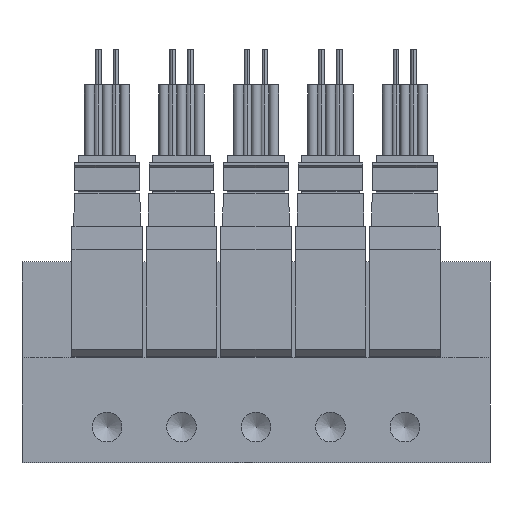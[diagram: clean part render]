
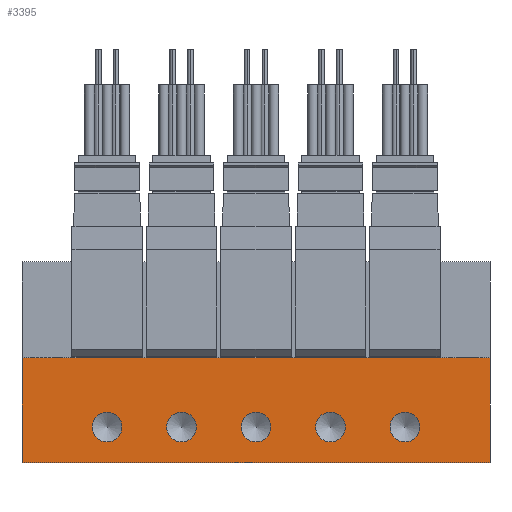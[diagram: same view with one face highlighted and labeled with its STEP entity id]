
A CAD part, front view. The second image highlights one B-rep face of the part: STEP entity #3395.
In plain terms, the highlighted planar face has unit normal (0, -1, 0).
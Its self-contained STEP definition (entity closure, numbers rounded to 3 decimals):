
#3395=ADVANCED_FACE('',(#5433,#5434,#5435,#5436,#5437,#5438),#5439,.F.);
#5433=FACE_BOUND('',#9680,.T.);
#5434=FACE_BOUND('',#9681,.T.);
#5435=FACE_BOUND('',#9682,.T.);
#5436=FACE_BOUND('',#9683,.T.);
#5437=FACE_BOUND('',#9684,.T.);
#5438=FACE_OUTER_BOUND('',#9685,.T.);
#5439=PLANE('',#9686);
#9680=EDGE_LOOP('',(#15055));
#9681=EDGE_LOOP('',(#15056));
#9682=EDGE_LOOP('',(#15057));
#9683=EDGE_LOOP('',(#15058));
#9684=EDGE_LOOP('',(#15059));
#9685=EDGE_LOOP('',(#15060,#15061,#15062,#15063));
#9686=AXIS2_PLACEMENT_3D('',#15064,#15065,#15066);
#15055=ORIENTED_EDGE('',*,*,#31189,.F.);
#15056=ORIENTED_EDGE('',*,*,#31213,.F.);
#15057=ORIENTED_EDGE('',*,*,#31214,.F.);
#15058=ORIENTED_EDGE('',*,*,#31215,.F.);
#15059=ORIENTED_EDGE('',*,*,#31216,.F.);
#15060=ORIENTED_EDGE('',*,*,#31217,.F.);
#15061=ORIENTED_EDGE('',*,*,#31218,.F.);
#15062=ORIENTED_EDGE('',*,*,#31219,.T.);
#15063=ORIENTED_EDGE('',*,*,#31211,.T.);
#15064=CARTESIAN_POINT('',(-66.0,0.,14.8));
#15065=DIRECTION('',(0.0,1.0,0.));
#15066=DIRECTION('',(0.0,0.,1.0));
#31189=EDGE_CURVE('',#36426,#36426,#36427,.T.);
#31211=EDGE_CURVE('',#36467,#36465,#36468,.T.);
#31213=EDGE_CURVE('',#36470,#36470,#36471,.T.);
#31214=EDGE_CURVE('',#36472,#36472,#36473,.T.);
#31215=EDGE_CURVE('',#36474,#36474,#36475,.T.);
#31216=EDGE_CURVE('',#36476,#36476,#36477,.T.);
#31217=EDGE_CURVE('',#36478,#36465,#36479,.T.);
#31218=EDGE_CURVE('',#36480,#36478,#36481,.T.);
#31219=EDGE_CURVE('',#36480,#36467,#36482,.T.);
#36426=VERTEX_POINT('',#45293);
#36427=CIRCLE('',#45294,2.1);
#36465=VERTEX_POINT('',#45345);
#36467=VERTEX_POINT('',#45348);
#36468=LINE('',#45349,#45350);
#36470=VERTEX_POINT('',#45353);
#36471=CIRCLE('',#45354,2.1);
#36472=VERTEX_POINT('',#45355);
#36473=CIRCLE('',#45356,2.1);
#36474=VERTEX_POINT('',#45357);
#36475=CIRCLE('',#45358,2.1);
#36476=VERTEX_POINT('',#45359);
#36477=CIRCLE('',#45360,2.1);
#36478=VERTEX_POINT('',#45361);
#36479=LINE('',#45362,#45363);
#36480=VERTEX_POINT('',#45364);
#36481=LINE('',#45365,#45366);
#36482=LINE('',#45367,#45368);
#45293=CARTESIAN_POINT('',(-54.0,0.,2.9));
#45294=AXIS2_PLACEMENT_3D('',#57982,#57983,#57984);
#45345=CARTESIAN_POINT('',(0.0,0.0,0.0));
#45348=CARTESIAN_POINT('',(-66.0,0.0,0.0));
#45349=CARTESIAN_POINT('',(-66.0,0.0,0.0));
#45350=VECTOR('',#58020,1.0);
#45353=CARTESIAN_POINT('',(-43.5,0.,2.9));
#45354=AXIS2_PLACEMENT_3D('',#58022,#58023,#58024);
#45355=CARTESIAN_POINT('',(-33.0,0.,2.9));
#45356=AXIS2_PLACEMENT_3D('',#58025,#58026,#58027);
#45357=CARTESIAN_POINT('',(-22.5,0.,2.9));
#45358=AXIS2_PLACEMENT_3D('',#58028,#58029,#58030);
#45359=CARTESIAN_POINT('',(-12.0,0.,2.9));
#45360=AXIS2_PLACEMENT_3D('',#58031,#58032,#58033);
#45361=CARTESIAN_POINT('',(0.0,0.,14.8));
#45362=CARTESIAN_POINT('',(0.0,0.,14.8));
#45363=VECTOR('',#58034,1.0);
#45364=CARTESIAN_POINT('',(-66.0,0.,14.8));
#45365=CARTESIAN_POINT('',(-66.0,0.,14.8));
#45366=VECTOR('',#58035,1.0);
#45367=CARTESIAN_POINT('',(-66.0,0.,14.8));
#45368=VECTOR('',#58036,1.0);
#57982=CARTESIAN_POINT('',(-54.0,0.0,5.0));
#57983=DIRECTION('',(0.0,-1.0,0.));
#57984=DIRECTION('',(0.0,0.,-1.0));
#58020=DIRECTION('',(1.0,0.0,0.0));
#58022=CARTESIAN_POINT('',(-43.5,0.0,5.0));
#58023=DIRECTION('',(0.0,-1.0,0.));
#58024=DIRECTION('',(0.0,0.,-1.0));
#58025=CARTESIAN_POINT('',(-33.0,0.0,5.0));
#58026=DIRECTION('',(0.0,-1.0,0.));
#58027=DIRECTION('',(0.0,0.,-1.0));
#58028=CARTESIAN_POINT('',(-22.5,0.0,5.0));
#58029=DIRECTION('',(0.0,-1.0,0.));
#58030=DIRECTION('',(0.0,0.,-1.0));
#58031=CARTESIAN_POINT('',(-12.0,0.0,5.0));
#58032=DIRECTION('',(0.0,-1.0,0.));
#58033=DIRECTION('',(0.0,0.,-1.0));
#58034=DIRECTION('',(0.0,0.,-1.0));
#58035=DIRECTION('',(1.0,0.0,0.0));
#58036=DIRECTION('',(0.0,0.,-1.0));
